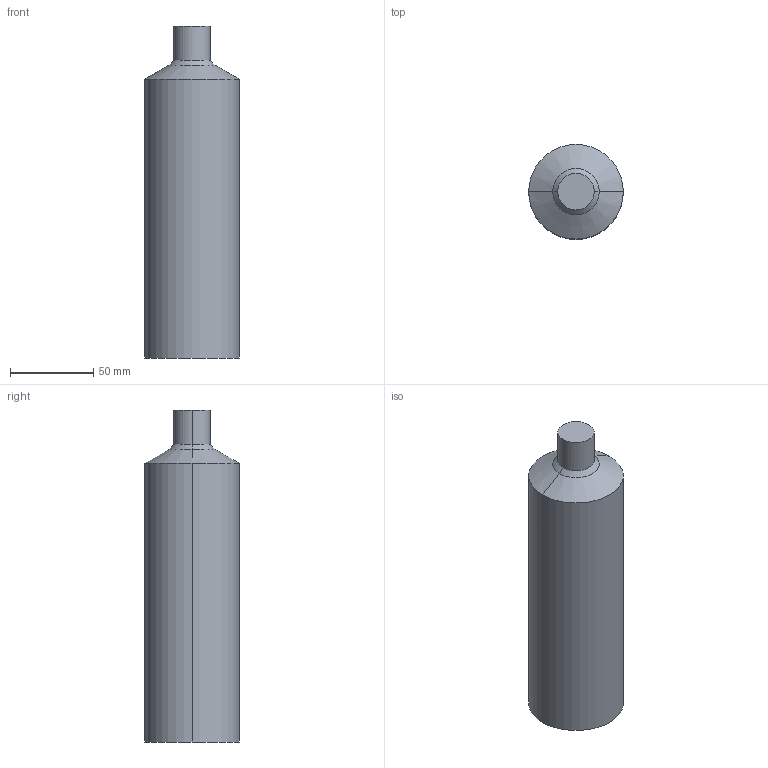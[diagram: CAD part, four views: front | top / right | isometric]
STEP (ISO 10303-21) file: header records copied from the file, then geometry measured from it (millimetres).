
FILE_DESCRIPTION (( 'STEP AP214' ), '1' );
FILE_NAME ('TECHTIP B MULTIZONE ON SPRUE 10 MM.STEP', '2017-05-12T08:29:10', ( '' ), ( '' ), 'SwSTEP 2.0', 'SolidWorks 2013', '' );
FILE_SCHEMA (( 'AUTOMOTIVE_DESIGN' ));
Length unit declared in the file: millimetre
Products named in the file (1): TECHTIP B MULTIZONE ON SPRUE 10 MM
Bounding box: 57 x 57 x 200 mm (x, y, z)
Volume: 450128.4 mm3; surface area: 36998.8 mm2
Topology: 1 solids, 1 shells, 10 faces, 18 edges, 10 vertices
Faces by surface type: cylinder 4, cone 4, plane 2
Entity records: 278 total; most frequent: DIRECTION 50, CARTESIAN_POINT 39, ORIENTED_EDGE 36, AXIS2_PLACEMENT_3D 21, EDGE_CURVE 18, ADVANCED_FACE 10, FACE_OUTER_BOUND 10, CIRCLE 10
